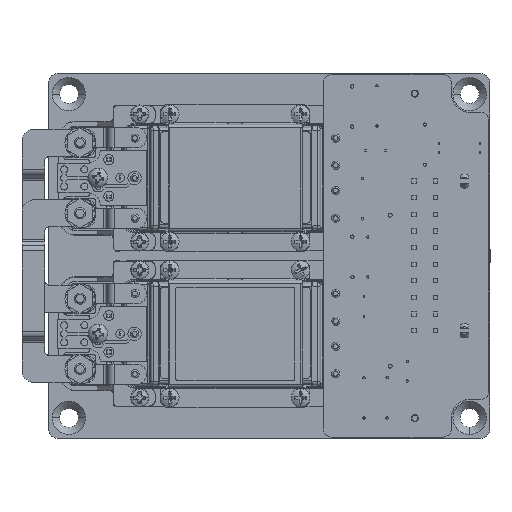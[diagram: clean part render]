
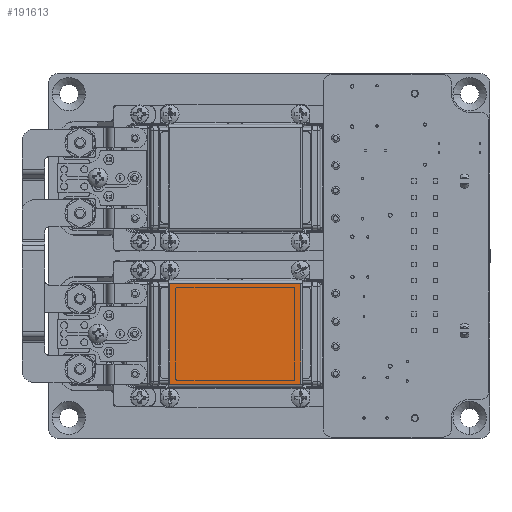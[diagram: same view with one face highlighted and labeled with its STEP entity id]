
A CAD part, top view. The second image highlights one B-rep face of the part: STEP entity #191613.
In plain terms, the highlighted planar face has unit normal (0, 0, 1).
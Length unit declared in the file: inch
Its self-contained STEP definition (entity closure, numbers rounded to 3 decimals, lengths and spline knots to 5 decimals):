
#5974 = VECTOR ( 'NONE', #16045, 39.37008 ) ;
#5975 = VECTOR ( 'NONE', #16047, 39.37008 ) ;
#5976 = VECTOR ( 'NONE', #16049, 39.37008 ) ;
#5978 = VECTOR ( 'NONE', #16051, 39.37008 ) ;
#8100 = LINE ( 'NONE', #16044, #5974 ) ;
#8102 = LINE ( 'NONE', #16046, #5975 ) ;
#8103 = LINE ( 'NONE', #16048, #5976 ) ;
#8104 = LINE ( 'NONE', #16050, #5978 ) ;
#16044 = CARTESIAN_POINT ( 'NONE',  ( -1.88222, -1.27881, 0.71644 ) ) ;
#16045 = DIRECTION ( 'NONE',  ( 0., -1., 0. ) ) ;
#16046 = CARTESIAN_POINT ( 'NONE',  ( -3.18612, -1.27881, 0.71644 ) ) ;
#16047 = DIRECTION ( 'NONE',  ( -1., 0., 0. ) ) ;
#16048 = CARTESIAN_POINT ( 'NONE',  ( -1.88222, -0.27581, 0.71644 ) ) ;
#16049 = DIRECTION ( 'NONE',  ( 1., 0., 0. ) ) ;
#16050 = CARTESIAN_POINT ( 'NONE',  ( -3.18612, -0.27581, 0.71644 ) ) ;
#16051 = DIRECTION ( 'NONE',  ( 0., 1., 0. ) ) ;
#77945 = VERTEX_POINT ( 'NONE', #104451 ) ;
#85067 = AXIS2_PLACEMENT_3D ( 'NONE', #102898, #102899, #102900 ) ;
#85517 = VERTEX_POINT ( 'NONE', #110815 ) ;
#85523 = VERTEX_POINT ( 'NONE', #110825 ) ;
#85524 = VERTEX_POINT ( 'NONE', #110826 ) ;
#102453 = FACE_OUTER_BOUND ( 'NONE', #128788, .T. ) ;
#102897 = PLANE ( 'NONE',  #85067 ) ;
#102898 = CARTESIAN_POINT ( 'NONE',  ( -10.59868, 4.87255, 0.71644 ) ) ;
#102899 = DIRECTION ( 'NONE',  ( 0., 0., 1. ) ) ;
#102900 = DIRECTION ( 'NONE',  ( 0., -1., 0. ) ) ;
#104451 = CARTESIAN_POINT ( 'NONE',  ( -3.18612, -1.27881, 0.71644 ) ) ;
#110815 = CARTESIAN_POINT ( 'NONE',  ( -1.88222, -1.27881, 0.71644 ) ) ;
#110825 = CARTESIAN_POINT ( 'NONE',  ( -3.18612, -0.27581, 0.71644 ) ) ;
#110826 = CARTESIAN_POINT ( 'NONE',  ( -1.88222, -0.27581, 0.71644 ) ) ;
#128788 = EDGE_LOOP ( 'NONE', ( #256376, #256383, #256380, #256386 ) ) ;
#191613 = ADVANCED_FACE ( 'NONE', ( #102453 ), #102897, .T. ) ;
#230223 = EDGE_CURVE ( 'NONE', #85524, #85517, #8100, .T. ) ;
#230224 = EDGE_CURVE ( 'NONE', #85517, #77945, #8102, .T. ) ;
#230225 = EDGE_CURVE ( 'NONE', #85523, #85524, #8103, .T. ) ;
#230226 = EDGE_CURVE ( 'NONE', #77945, #85523, #8104, .T. ) ;
#256376 = ORIENTED_EDGE ( 'NONE', *, *, #230224, .F. ) ;
#256380 = ORIENTED_EDGE ( 'NONE', *, *, #230225, .F. ) ;
#256383 = ORIENTED_EDGE ( 'NONE', *, *, #230223, .F. ) ;
#256386 = ORIENTED_EDGE ( 'NONE', *, *, #230226, .F. ) ;
